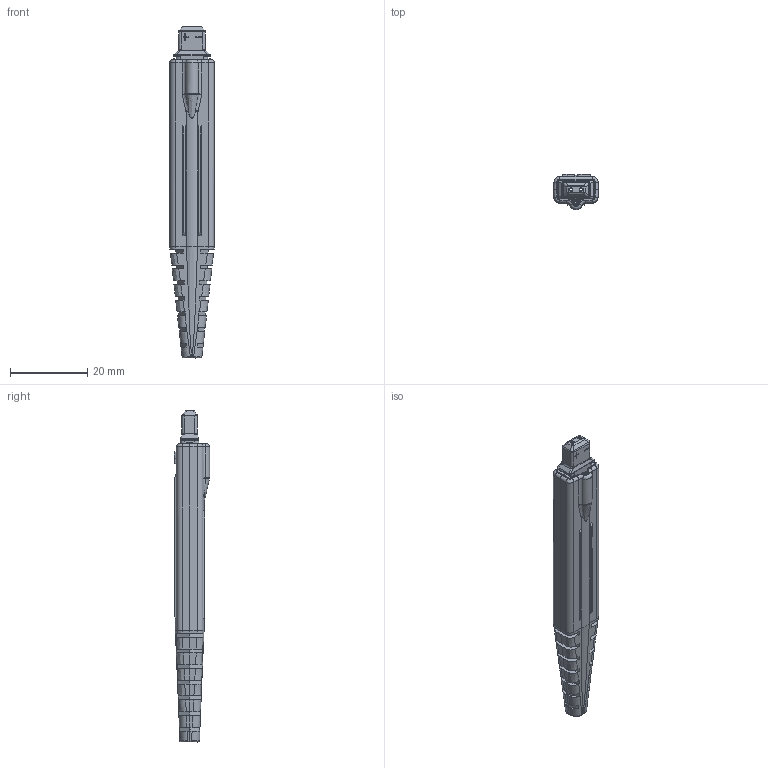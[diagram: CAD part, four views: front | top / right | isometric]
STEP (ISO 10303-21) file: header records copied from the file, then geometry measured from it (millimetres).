
FILE_DESCRIPTION((''),'2;1');
FILE_NAME('CUSTOMER_CAD_TDP1500_PH_ASM','2020-03-26T10:28:01',('hvermily'),(''),'CREO PARAMETRIC BY PTC INC, 2019080','CREO PARAMETRIC BY PTC INC, 2019080','');
FILE_SCHEMA(('CONFIG_CONTROL_DESIGN','SHAPE_APPEARANCE_LAYERS_GROUPS'));
Length unit declared in the file: inch
Products named in the file (12): 174-3641-00_2_ASM; 200434101; CABLE_LOW_ITL_ASM; TIP; SOCK2; SOCK1; SOCK_ASM; TDP_PROBE_ITL_ASM; 210012500; SOLDER_BUMP_STRAP_SUR; SOLDER_BUMP_CABLE_SUR; CUSTOMER_CAD_TDP1500_PH_ASM
Assembly tree (13 placements, depth 4):
  CUSTOMER_CAD_TDP1500_PH_ASM
    CABLE_LOW_ITL_ASM
      174-3641-00_2_ASM
      200434101
    TDP_PROBE_ITL_ASM
      TIP
      SOCK_ASM
        SOCK2
        SOCK1
    210012500
    SOLDER_BUMP_STRAP_SUR  x2
    SOLDER_BUMP_CABLE_SUR  x2
Bounding box: 11.61 x 9.13 x 86.16 mm (x, y, z)
Volume: 2402.7 mm3; surface area: 5414.2 mm2
Topology: 9 solids, 9 shells, 650 faces, 1655 edges, 1030 vertices
Faces by surface type: plane 343, cylinder 172, bspline 80, cone 39, torus 8, sphere 8
Entity records: 28537 total; most frequent: CARTESIAN_POINT 8755, ORIENTED_EDGE 3232, DIRECTION 2664, EDGE_CURVE 1616, PRESENTATION_STYLE_ASSIGNMENT 1585, STYLED_ITEM 1575, CURVE_STYLE 1571, VERTEX_POINT 1010
